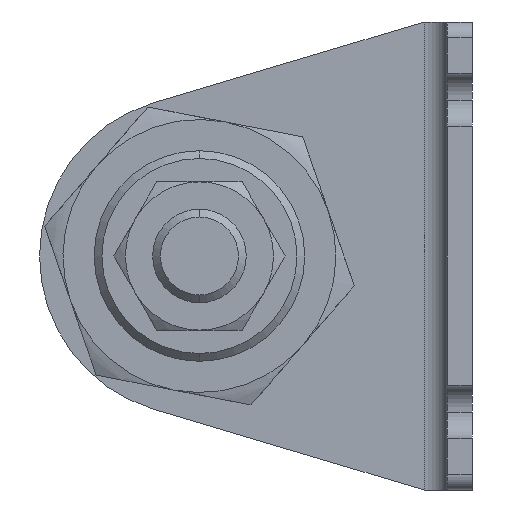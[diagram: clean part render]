
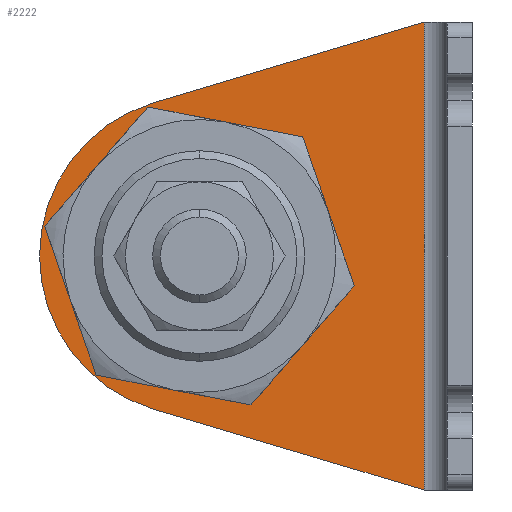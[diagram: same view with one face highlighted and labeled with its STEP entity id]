
A CAD part, left-side view. The second image highlights one B-rep face of the part: STEP entity #2222.
In plain terms, the highlighted planar face has unit normal (-1, 0, 0) as drawn and (1, 0, 0) by its records, which use the part's own axes.
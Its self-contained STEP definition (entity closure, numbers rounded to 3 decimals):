
#7 = CARTESIAN_POINT ( 'NONE',  ( 3.2, 19.903, -4.094 ) ) ;
#20 = CIRCLE ( 'NONE', #3940, 13.5 ) ;
#58 = CARTESIAN_POINT ( 'NONE',  ( 3.2, 6.2, 0. ) ) ;
#89 = CARTESIAN_POINT ( 'NONE',  ( 3.2, 21.5, -30. ) ) ;
#174 = LINE ( 'NONE', #7, #2942 ) ;
#194 = CARTESIAN_POINT ( 'NONE',  ( 3.2, 35., -30. ) ) ;
#217 = CARTESIAN_POINT ( 'NONE',  ( 3.2, 3.2, -60. ) ) ;
#590 = VERTEX_POINT ( 'NONE', #1679 ) ;
#645 = VERTEX_POINT ( 'NONE', #1048 ) ;
#675 = VERTEX_POINT ( 'NONE', #58 ) ;
#708 = DIRECTION ( 'NONE',  ( 0., 1., 0. ) ) ;
#870 = AXIS2_PLACEMENT_3D ( 'NONE', #2800, #1526, #2516 ) ;
#923 = EDGE_LOOP ( 'NONE', ( #3170, #1588, #3763, #1577, #1600 ) ) ;
#1026 = CARTESIAN_POINT ( 'NONE',  ( 3.2, 48.5, -30. ) ) ;
#1048 = CARTESIAN_POINT ( 'NONE',  ( 3.2, 40.868, -10.358 ) ) ;
#1170 = ORIENTED_EDGE ( 'NONE', *, *, #3834, .F. ) ;
#1253 = DIRECTION ( 'NONE',  ( 0., 1., 0. ) ) ;
#1267 = VERTEX_POINT ( 'NONE', #1026 ) ;
#1297 = EDGE_CURVE ( 'NONE', #675, #645, #174, .T. ) ;
#1526 = DIRECTION ( 'NONE',  ( 1., 0., 0. ) ) ;
#1572 = CARTESIAN_POINT ( 'NONE',  ( 3.2, 35., -30. ) ) ;
#1575 = EDGE_CURVE ( 'NONE', #675, #1698, #2574, .T. ) ;
#1577 = ORIENTED_EDGE ( 'NONE', *, *, #1297, .F. ) ;
#1588 = ORIENTED_EDGE ( 'NONE', *, *, #2783, .T. ) ;
#1592 = EDGE_CURVE ( 'NONE', #3458, #1267, #20, .T. ) ;
#1600 = ORIENTED_EDGE ( 'NONE', *, *, #1575, .T. ) ;
#1679 = CARTESIAN_POINT ( 'NONE',  ( 3.2, 55.5, -30. ) ) ;
#1698 = VERTEX_POINT ( 'NONE', #2919 ) ;
#1715 = LINE ( 'NONE', #3389, #2394 ) ;
#1728 = AXIS2_PLACEMENT_3D ( 'NONE', #3677, #2349, #708 ) ;
#1838 = DIRECTION ( 'NONE',  ( 1., 0., 0. ) ) ;
#2060 = DIRECTION ( 'NONE',  ( 0., 0.958, 0.286 ) ) ;
#2100 = VECTOR ( 'NONE', #3183, 1000. ) ;
#2208 = FACE_BOUND ( 'NONE', #3226, .T. ) ;
#2222 = ADVANCED_FACE ( 'NONE', ( #2208, #2624 ), #4067, .T. ) ;
#2238 = AXIS2_PLACEMENT_3D ( 'NONE', #1572, #2929, #1253 ) ;
#2344 = EDGE_CURVE ( 'NONE', #590, #645, #3928, .T. ) ;
#2349 = DIRECTION ( 'NONE',  ( 1., 0., 0. ) ) ;
#2394 = VECTOR ( 'NONE', #2060, 1000. ) ;
#2516 = DIRECTION ( 'NONE',  ( 0., 1., 0. ) ) ;
#2574 = LINE ( 'NONE', #3850, #2100 ) ;
#2624 = FACE_OUTER_BOUND ( 'NONE', #923, .T. ) ;
#2783 = EDGE_CURVE ( 'NONE', #3517, #590, #3551, .T. ) ;
#2800 = CARTESIAN_POINT ( 'NONE',  ( 3.2, 35., -30. ) ) ;
#2828 = DIRECTION ( 'NONE',  ( 0., 1., 0. ) ) ;
#2919 = CARTESIAN_POINT ( 'NONE',  ( 3.2, 6.2, -60. ) ) ;
#2929 = DIRECTION ( 'NONE',  ( 1., 0., 0. ) ) ;
#2942 = VECTOR ( 'NONE', #3709, 1000. ) ;
#3170 = ORIENTED_EDGE ( 'NONE', *, *, #4292, .T. ) ;
#3183 = DIRECTION ( 'NONE',  ( 0., 0., -1. ) ) ;
#3226 = EDGE_LOOP ( 'NONE', ( #1170, #3400 ) ) ;
#3288 = AXIS2_PLACEMENT_3D ( 'NONE', #217, #3847, #2828 ) ;
#3389 = CARTESIAN_POINT ( 'NONE',  ( 3.2, 3.446, -60.823 ) ) ;
#3400 = ORIENTED_EDGE ( 'NONE', *, *, #1592, .F. ) ;
#3458 = VERTEX_POINT ( 'NONE', #89 ) ;
#3468 = DIRECTION ( 'NONE',  ( 0., 1., 0. ) ) ;
#3517 = VERTEX_POINT ( 'NONE', #3753 ) ;
#3551 = CIRCLE ( 'NONE', #870, 20.5 ) ;
#3677 = CARTESIAN_POINT ( 'NONE',  ( 3.2, 35., -30. ) ) ;
#3709 = DIRECTION ( 'NONE',  ( 0., 0.958, -0.286 ) ) ;
#3753 = CARTESIAN_POINT ( 'NONE',  ( 3.2, 40.868, -49.642 ) ) ;
#3763 = ORIENTED_EDGE ( 'NONE', *, *, #2344, .T. ) ;
#3834 = EDGE_CURVE ( 'NONE', #1267, #3458, #4062, .T. ) ;
#3847 = DIRECTION ( 'NONE',  ( 1., 0., 0. ) ) ;
#3850 = CARTESIAN_POINT ( 'NONE',  ( 3.2, 6.2, -60. ) ) ;
#3928 = CIRCLE ( 'NONE', #2238, 20.5 ) ;
#3940 = AXIS2_PLACEMENT_3D ( 'NONE', #194, #1838, #3468 ) ;
#4062 = CIRCLE ( 'NONE', #1728, 13.5 ) ;
#4067 = PLANE ( 'NONE',  #3288 ) ;
#4292 = EDGE_CURVE ( 'NONE', #1698, #3517, #1715, .T. ) ;
